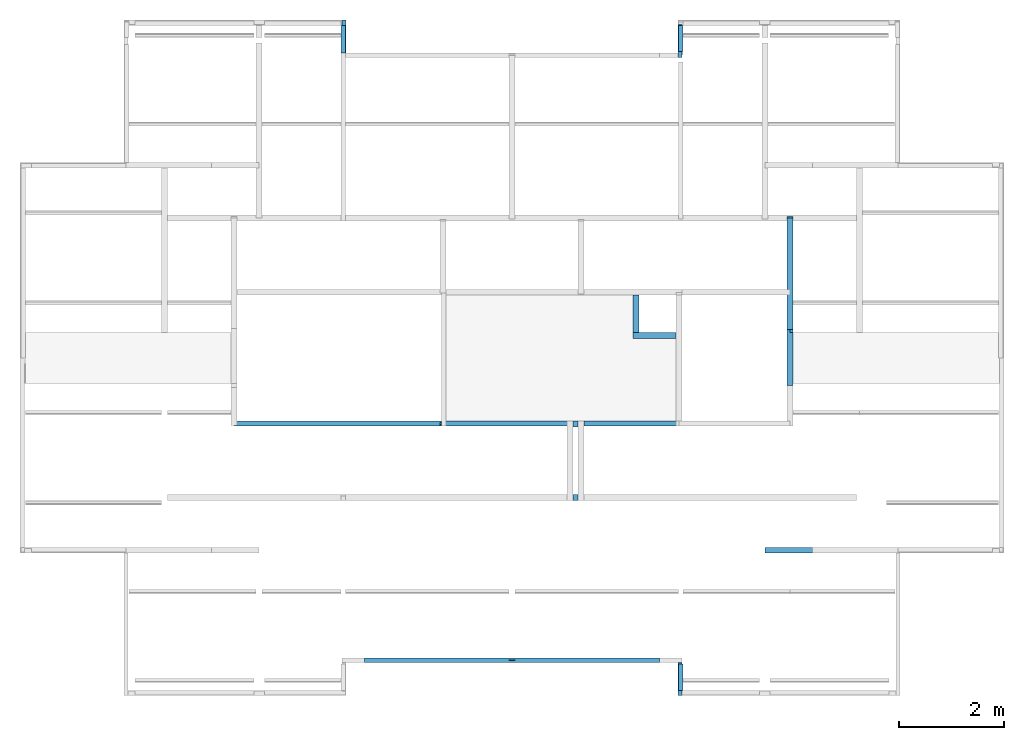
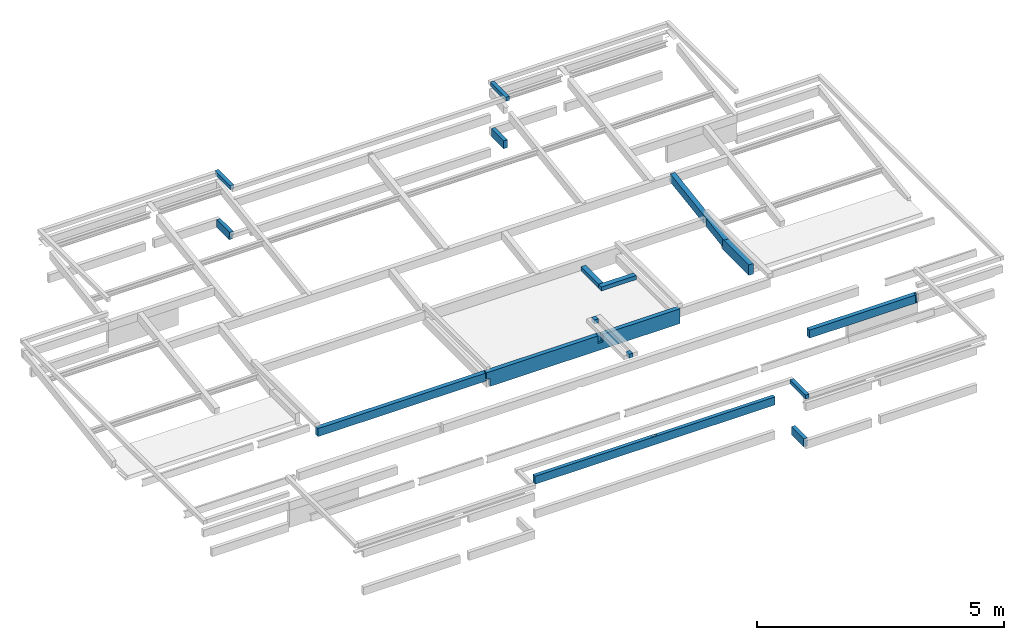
# One storey, part 7 of 9: 16 beams.
"""IFC4 building model written with IfcOpenShell, lengths in metres."""

import ifcopenshell
import ifcopenshell.guid

model = None  # the IFC model being written
_history = None  # IfcOwnerHistory: only IFC2X3 demands one
_inside = {}  # id of a spatial element -> (the spatial element, [elements in it])
_under = {}  # id of a project, library or spatial element -> (it, [spatial elements below it])
_declared = {}  # id of a project -> (the project, [libraries it declares])
_typed = {}  # id of a type object -> (the type object, [elements of that type])
_made_of = {}  # id of a material, layer set ... -> (it, [elements and type objects made of it])


def new_model(schema):
    """Start an empty IFC model of exactly this schema.

    Asked for "IFC4X3", IfcOpenShell would pick the latest addendum, in which some entities
    have other attributes; the version numbers below select the first issue.
    IFC2X3 requires an IfcOwnerHistory on every rooted entity: one is made here for all.
    """
    global model, _history
    if schema == "IFC4X3":
        model = ifcopenshell.file(schema_version=(4, 3, 0, 0))
    else:
        model = ifcopenshell.file(schema=schema)
    _inside.clear()
    _under.clear()
    _declared.clear()
    _typed.clear()
    _made_of.clear()
    _history = None
    if model.schema == "IFC2X3":
        org = make("IfcOrganization", Name="unknown")
        user = make(
            "IfcPersonAndOrganization",
            ThePerson=make("IfcPerson", FamilyName="unknown"),
            TheOrganization=org,
        )
        app = make(
            "IfcApplication",
            ApplicationDeveloper=org,
            Version="unknown",
            ApplicationFullName="unknown",
            ApplicationIdentifier="unknown",
        )
        _history = make(
            "IfcOwnerHistory",
            OwningUser=user,
            OwningApplication=app,
            ChangeAction="ADDED",
            CreationDate=0,
        )
    return model


def make(cls, **values):
    """One entity of the class cls with the attributes given. An attribute that is None is left unset."""
    return model.create_entity(
        cls, **{name: value for name, value in values.items() if value is not None}
    )


def entity(cls, *values):
    """Any entity or typed value of the class cls, its attributes in the order of the schema. None: left unset."""
    e = model.create_entity(cls)
    for i, value in enumerate(values):
        if value is not None:
            e[i] = value
    return e


def rooted(cls, **values):
    """An entity with a GlobalId (a new one), such as an element, a storey or a relation."""
    return make(cls, GlobalId=ifcopenshell.guid.new(), OwnerHistory=_history, **values)


def si_unit(unit_type, name, prefix=None):
    """IfcSIUnit, for example si_unit("LENGTHUNIT", "METRE", prefix="MILLI")."""
    return make("IfcSIUnit", UnitType=unit_type, Prefix=prefix, Name=name)


def converted_unit(unit_type, name, factor, base, dimensions=None, offset=None):
    """IfcConversionBasedUnit, such as the inch: factor (a typed value) times the base unit."""
    return make(
        "IfcConversionBasedUnit"
        if offset is None
        else "IfcConversionBasedUnitWithOffset",
        ConversionOffset=offset,
        Dimensions=None
        if dimensions is None
        else entity("IfcDimensionalExponents", *dimensions),
        UnitType=unit_type,
        Name=name,
        ConversionFactor=make(
            "IfcMeasureWithUnit", ValueComponent=factor, UnitComponent=base
        ),
    )


def derived_unit(unit_type, elements):
    """IfcDerivedUnit: a product of units, each with its exponent."""
    return make(
        "IfcDerivedUnit",
        Elements=[
            make("IfcDerivedUnitElement", Unit=unit, Exponent=power)
            for unit, power in elements
        ],
        UnitType=unit_type,
    )


def assignment(units):
    """IfcUnitAssignment: the units of a project."""
    return None if units is None else make("IfcUnitAssignment", Units=units)


def point(xyz):
    """IfcCartesianPoint."""
    return None if xyz is None else make("IfcCartesianPoint", Coordinates=xyz)


def direction(xyz):
    """IfcDirection."""
    return None if xyz is None else make("IfcDirection", DirectionRatios=xyz)


def frame(location, z_axis=None, x_axis=None):
    """IfcAxis2Placement3D, a coordinate frame: its origin and axes. An axis left out is left unset."""
    return make(
        "IfcAxis2Placement3D",
        Location=point(location),
        Axis=direction(z_axis),
        RefDirection=direction(x_axis),
    )


def origin():
    """The frame at (0, 0, 0) with its axes left unset."""
    return frame((0.0, 0.0, 0.0))


def place(relative_to, where):
    """IfcLocalPlacement: puts the frame where relative to a parent placement (None: the world)."""
    return make(
        "IfcLocalPlacement", PlacementRelTo=relative_to, RelativePlacement=where
    )


def context(
    kind, dimensions, precision=None, world=None, true_north=None, identifier=None
):
    """IfcGeometricRepresentationContext, for example the 3D "Model" context."""
    return make(
        "IfcGeometricRepresentationContext",
        ContextIdentifier=identifier,
        ContextType=kind,
        CoordinateSpaceDimension=dimensions,
        Precision=precision,
        WorldCoordinateSystem=world,
        TrueNorth=true_north,
    )


def subcontext(parent, identifier, kind, view, scale=None):
    """IfcGeometricRepresentationSubContext, for example "Body" below "Model"."""
    return make(
        "IfcGeometricRepresentationSubContext",
        ContextIdentifier=identifier,
        ContextType=kind,
        ParentContext=parent,
        TargetScale=scale,
        TargetView=view,
    )


def project(units=None, contexts=None):
    """IfcProject with its units and contexts."""
    return rooted(
        "IfcProject",
        Name="project",
        RepresentationContexts=contexts,
        UnitsInContext=assignment(units),
    )


def spatial(cls, under=None, at=None, **own):
    """A site, building, storey or space (cls), placed at a placement, below another one or the project."""
    s = rooted(cls, ObjectPlacement=at, **own)
    if under is not None:
        _under.setdefault(under.id(), (under, []))[1].append(s)
    return s


def point_list(points):
    """IfcCartesianPointList2D or 3D."""
    cls = (
        "IfcCartesianPointList2D" if len(points[0]) == 2 else "IfcCartesianPointList3D"
    )
    return make(cls, CoordList=points)


def indexed_curve(points, segments=None, self_intersect=None):
    """IfcIndexedPolyCurve: lines and arcs through numbered points (the first is 1)."""
    return make(
        "IfcIndexedPolyCurve",
        Points=point_list(points),
        Segments=segments,
        SelfIntersect=self_intersect,
    )


def outline(outer, holes=None, kind="AREA"):
    """IfcArbitraryClosedProfileDef: a profile drawn as a closed curve; with holes, ...WithVoids."""
    if holes is None:
        return make("IfcArbitraryClosedProfileDef", ProfileType=kind, OuterCurve=outer)
    return make(
        "IfcArbitraryProfileDefWithVoids",
        ProfileType=kind,
        OuterCurve=outer,
        InnerCurves=holes,
    )


def extrude(swept, where, along, depth):
    """IfcExtrudedAreaSolid: the profile swept, set in the frame where, extruded along a direction by depth."""
    return make(
        "IfcExtrudedAreaSolid",
        SweptArea=swept,
        Position=where,
        ExtrudedDirection=direction(along),
        Depth=depth,
    )


def polygons(points, faces, closed=None, point_numbers=None):
    """IfcPolygonalFaceSet: a face is its outer loop, then its inner loops; points numbered from 1."""
    made = []
    for loops in faces:
        if len(loops) == 1:
            made.append(make("IfcIndexedPolygonalFace", CoordIndex=loops[0]))
        else:
            made.append(
                make(
                    "IfcIndexedPolygonalFaceWithVoids",
                    CoordIndex=loops[0],
                    InnerCoordIndices=loops[1:],
                )
            )
    return make(
        "IfcPolygonalFaceSet",
        Coordinates=point_list(points),
        Closed=closed,
        Faces=made,
        PnIndex=point_numbers,
    )


def shape(context_of_items, identifier, shape_type, items):
    """IfcShapeRepresentation: the items that make up one representation, for example the "Body"."""
    return make(
        "IfcShapeRepresentation",
        ContextOfItems=context_of_items,
        RepresentationIdentifier=identifier,
        RepresentationType=shape_type,
        Items=items,
    )


def source(mapping_origin, context_of_items, identifier, shape_type, items):
    """IfcRepresentationMap: a shape defined once, which mapped items show again and again."""
    return make(
        "IfcRepresentationMap",
        MappingOrigin=mapping_origin,
        MappedRepresentation=shape(context_of_items, identifier, shape_type, items),
    )


def transform(
    local_origin,
    x_axis=None,
    y_axis=None,
    z_axis=None,
    scale=None,
    scale2=None,
    scale3=None,
    uniform=True,
):
    """IfcCartesianTransformationOperator3D, or its non-uniform kind. x_axis, y_axis, z_axis: its Axis1, 2, 3."""
    if uniform:
        return make(
            "IfcCartesianTransformationOperator3D",
            Axis1=direction(x_axis),
            Axis2=direction(y_axis),
            LocalOrigin=point(local_origin),
            Scale=scale,
            Axis3=direction(z_axis),
        )
    return make(
        "IfcCartesianTransformationOperator3DnonUniform",
        Axis1=direction(x_axis),
        Axis2=direction(y_axis),
        LocalOrigin=point(local_origin),
        Scale=scale,
        Axis3=direction(z_axis),
        Scale2=scale2,
        Scale3=scale3,
    )


def mapped(mapping_source, mapping_target):
    """IfcMappedItem: shows the shape of a source again, moved by a transform."""
    return make(
        "IfcMappedItem", MappingSource=mapping_source, MappingTarget=mapping_target
    )


def material(Name=None, Category=None):
    """IfcMaterial."""
    return make("IfcMaterial", Name=Name, Category=Category)


def made_of(thing, what):
    """Note that an element or type object is made of a material, layer set ...; save() writes the relation."""
    if what is not None:
        _made_of.setdefault(what.id(), (what, []))[1].append(thing)
    return thing


def type_object(cls, material=None, **own):
    """A type object (cls), such as IfcWallType, which elements share."""
    return made_of(rooted(cls, **own), material)


def type_shapes(of_type, sources):
    """Give a type object the sources (RepresentationMaps) that its elements show as mapped items."""
    of_type.RepresentationMaps = sources


def element(
    cls,
    number,
    at=None,
    inside=None,
    cuts=None,
    type_object=None,
    material=None,
    context=None,
    identifier="Body",
    shape_type=None,
    held_by="IfcProductDefinitionShape",
    body=None,
    shapes=None,
    **own,
):
    """One element of the class cls, such as IfcWall. Its Tag is "e" and its number.

    at: its placement. inside: the storey or other place that contains it. cuts: it is an
    opening in that element (IfcRelVoidsElement). A single representation is given by context,
    identifier, shape_type and body (its items); several are given by shapes. held_by: the class
    of the entity that holds the representations. save() writes the other relations.
    """
    e = rooted(cls, Tag="e%d" % number, ObjectPlacement=at, **own)
    if body is not None:
        shapes = [shape(context, identifier, shape_type, body)]
    if shapes is not None:
        e.Representation = make(held_by, Representations=shapes)
    if inside is not None:
        _inside.setdefault(inside.id(), (inside, []))[1].append(e)
    if cuts is not None:
        rooted(
            "IfcRelVoidsElement", RelatingBuildingElement=cuts, RelatedOpeningElement=e
        )
    if type_object is not None:
        _typed.setdefault(type_object.id(), (type_object, []))[1].append(e)
    return made_of(e, material)


def aggregate(whole, parts):
    """IfcRelAggregates: a whole, such as a stair, and the parts it consists of."""
    return rooted("IfcRelAggregates", RelatingObject=whole, RelatedObjects=parts)


def save(model, path):
    """Write the relations noted so far, then the file.

    IfcRelAggregates (storeys below a building ...), IfcRelContainedInSpatialStructure (elements
    in a storey), IfcRelDefinesByType, IfcRelAssociatesMaterial and IfcRelDeclares: one each for
    every whole, place, type object, material and project.
    """
    for whole, parts in _under.values():
        aggregate(whole, parts)
    for where, things in _inside.values():
        rooted(
            "IfcRelContainedInSpatialStructure",
            RelatedElements=things,
            RelatingStructure=where,
        )
    for kind, things in _typed.values():
        rooted("IfcRelDefinesByType", RelatedObjects=things, RelatingType=kind)
    for what, things in _made_of.values():
        rooted("IfcRelAssociatesMaterial", RelatedObjects=things, RelatingMaterial=what)
    for by, libraries in _declared.values():
        rooted("IfcRelDeclares", RelatingContext=by, RelatedDefinitions=libraries)
    model.write(path)


model = new_model("IFC4")

# Units and contexts
model_context = context("Model", 3, precision=1e-05, world=origin(), true_north=direction((6.123031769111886e-17, 1.0)))
body_context = subcontext(model_context, "Body", "Model", "MODEL_VIEW")
ifc_project = project(units=[si_unit("LENGTHUNIT", "METRE"), si_unit("AREAUNIT", "SQUARE_METRE"), si_unit("VOLUMEUNIT", "CUBIC_METRE"), converted_unit("PLANEANGLEUNIT", "DEGREE", entity("IfcRatioMeasure", 0.017453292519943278), si_unit("PLANEANGLEUNIT", "RADIAN"), dimensions=[0, 0, 0, 0, 0, 0, 0]), si_unit("MASSUNIT", "GRAM", prefix="KILO"), derived_unit("MASSDENSITYUNIT", [(si_unit("MASSUNIT", "GRAM", prefix="KILO"), 1), (si_unit("LENGTHUNIT", "METRE"), -3)]), derived_unit("IONCONCENTRATIONUNIT", [(si_unit("MASSUNIT", "GRAM", prefix="KILO"), 1), (si_unit("LENGTHUNIT", "METRE"), -3)]), derived_unit("MOMENTOFINERTIAUNIT", [(si_unit("LENGTHUNIT", "METRE"), 4)]), si_unit("TIMEUNIT", "SECOND"), si_unit("FREQUENCYUNIT", "HERTZ"), si_unit("THERMODYNAMICTEMPERATUREUNIT", "DEGREE_CELSIUS"), derived_unit("THERMALTRANSMITTANCEUNIT", [(si_unit("MASSUNIT", "GRAM", prefix="KILO"), 1), (si_unit("THERMODYNAMICTEMPERATUREUNIT", "KELVIN"), -1), (si_unit("TIMEUNIT", "SECOND"), -3)]), derived_unit("THERMALCONDUCTANCEUNIT", [(si_unit("MASSUNIT", "GRAM", prefix="KILO"), 1), (si_unit("THERMODYNAMICTEMPERATUREUNIT", "KELVIN"), -1), (si_unit("TIMEUNIT", "SECOND"), -3), (si_unit("LENGTHUNIT", "METRE"), 1)]), derived_unit("VOLUMETRICFLOWRATEUNIT", [(si_unit("LENGTHUNIT", "METRE"), 3), (si_unit("TIMEUNIT", "SECOND"), -1)]), derived_unit("MASSFLOWRATEUNIT", [(si_unit("MASSUNIT", "GRAM", prefix="KILO"), 1), (si_unit("TIMEUNIT", "SECOND"), -1)]), derived_unit("ROTATIONALFREQUENCYUNIT", [(si_unit("TIMEUNIT", "SECOND"), -1)]), si_unit("ELECTRICCURRENTUNIT", "AMPERE"), si_unit("ELECTRICVOLTAGEUNIT", "VOLT"), si_unit("POWERUNIT", "WATT"), si_unit("FORCEUNIT", "NEWTON", prefix="KILO"), si_unit("ILLUMINANCEUNIT", "LUX"), si_unit("LUMINOUSFLUXUNIT", "LUMEN"), si_unit("LUMINOUSINTENSITYUNIT", "CANDELA"), derived_unit("USERDEFINED", [(si_unit("MASSUNIT", "GRAM", prefix="KILO"), -1), (si_unit("LENGTHUNIT", "METRE"), -2), (si_unit("TIMEUNIT", "SECOND"), 3), (si_unit("LUMINOUSFLUXUNIT", "LUMEN"), 1)]), derived_unit("USERDEFINED", [(si_unit("MASSUNIT", "GRAM", prefix="KILO"), 1), (si_unit("TIMEUNIT", "SECOND"), -3), (si_unit("LENGTHUNIT", "METRE"), 3), (si_unit("ELECTRICCURRENTUNIT", "AMPERE"), -2)]), derived_unit("SOUNDPOWERUNIT", [(si_unit("MASSUNIT", "GRAM", prefix="KILO"), 1), (si_unit("TIMEUNIT", "SECOND"), -3), (si_unit("LENGTHUNIT", "METRE"), 2)]), derived_unit("SOUNDPRESSUREUNIT", [(si_unit("MASSUNIT", "GRAM", prefix="KILO"), 1), (si_unit("LENGTHUNIT", "METRE"), -1), (si_unit("TIMEUNIT", "SECOND"), -2)]), derived_unit("LINEARVELOCITYUNIT", [(si_unit("LENGTHUNIT", "METRE"), 1), (si_unit("TIMEUNIT", "SECOND"), -1)]), si_unit("PRESSUREUNIT", "PASCAL"), derived_unit("USERDEFINED", [(si_unit("MASSUNIT", "GRAM", prefix="KILO"), 1), (si_unit("LENGTHUNIT", "METRE"), -2), (si_unit("TIMEUNIT", "SECOND"), -2)]), derived_unit("LINEARFORCEUNIT", [(si_unit("MASSUNIT", "GRAM", prefix="KILO"), 1), (si_unit("TIMEUNIT", "SECOND"), -2)]), derived_unit("PLANARFORCEUNIT", [(si_unit("MASSUNIT", "GRAM", prefix="KILO"), 1), (si_unit("LENGTHUNIT", "METRE"), -1), (si_unit("TIMEUNIT", "SECOND"), -2)]), derived_unit("SPECIFICHEATCAPACITYUNIT", [(si_unit("THERMODYNAMICTEMPERATUREUNIT", "KELVIN"), -1), (si_unit("LENGTHUNIT", "METRE"), 2), (si_unit("TIMEUNIT", "SECOND"), -2)]), derived_unit("HEATINGVALUEUNIT", [(si_unit("LENGTHUNIT", "METRE"), 2), (si_unit("TIMEUNIT", "SECOND"), -2)]), derived_unit("VAPORPERMEABILITYUNIT", [(si_unit("LENGTHUNIT", "METRE"), -1), (si_unit("TIMEUNIT", "SECOND"), 1)]), derived_unit("DYNAMICVISCOSITYUNIT", [(si_unit("MASSUNIT", "GRAM", prefix="KILO"), 1), (si_unit("TIMEUNIT", "SECOND"), -1), (si_unit("LENGTHUNIT", "METRE"), -1)]), derived_unit("THERMALEXPANSIONCOEFFICIENTUNIT", [(si_unit("THERMODYNAMICTEMPERATUREUNIT", "KELVIN"), -1)]), derived_unit("MODULUSOFELASTICITYUNIT", [(si_unit("MASSUNIT", "GRAM", prefix="KILO"), 1), (si_unit("LENGTHUNIT", "METRE"), -1), (si_unit("TIMEUNIT", "SECOND"), -2)]), derived_unit("ISOTHERMALMOISTURECAPACITYUNIT", [(si_unit("LENGTHUNIT", "METRE"), 3), (si_unit("MASSUNIT", "GRAM", prefix="KILO"), -1)]), derived_unit("MOISTUREDIFFUSIVITYUNIT", [(si_unit("TIMEUNIT", "SECOND"), -1), (si_unit("LENGTHUNIT", "METRE"), 2)])], contexts=[model_context])

# Site, building, storey
site_placement = place(None, origin())
site = spatial("IfcSite", under=ifc_project, at=site_placement, Name="Default", CompositionType="ELEMENT")
building_placement = place(site_placement, origin())
building = spatial("IfcBuilding", under=site, at=building_placement, Name="Las nubes", CompositionType="ELEMENT")
storey_placement = place(building_placement, frame((0.0, 0.0, 14.100000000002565)))
storey = spatial("IfcBuildingStorey", under=building, at=storey_placement, Name="CUBIERTA", CompositionType="ELEMENT", Elevation=14.100000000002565)

# Beams
ifc_material_1 = material(Name="Concrete, Cast In Situ", Category="Materials")
beam_type_1 = type_object("IfcBeamType", Name="M_Concrete-Rectangular Beam:(0.115x0.20)", PredefinedType="BEAM", material=ifc_material_1)
shared_shape_1 = source(origin(), body_context, "Body", "Tessellation", [
    polygons([(6.497202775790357e-15, 2.1734001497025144, 0.5237972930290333), (0.11500000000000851, 2.1734001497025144, 0.5237972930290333), (0.11500000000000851, 2.203068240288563, 0.3260100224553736), (6.497202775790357e-15, 2.203068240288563, 0.3260100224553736), (0.0, 0.0, 0.19778727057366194), (0.0, 0.029668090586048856, 0.0), (0.057499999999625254, 0.029668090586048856, 0.0), (0.11500000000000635, 0.029668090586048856, 0.0), (0.11500000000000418, 0.0009001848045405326, 0.19178603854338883), (0.11500000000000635, 0.0, 0.19778727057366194), (2.1657342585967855e-15, 0.7159001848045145, 0.30516729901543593), (0.11500000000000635, 0.0009001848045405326, 0.19792229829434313), (0.11500000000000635, 0.00840020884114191, 0.19904730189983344), (0.11500000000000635, 0.11590018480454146, 0.01293481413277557), (2.1657342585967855e-15, 0.05340018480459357, 0.0035598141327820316), (2.1657342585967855e-15, 0.11590018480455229, 0.01293481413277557), (2.1657342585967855e-15, 0.730650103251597, 0.10514730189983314), (0.05749999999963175, 0.7306501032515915, 0.10514730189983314), (0.05749999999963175, 0.8159001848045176, 0.11793481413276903), (2.1657342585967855e-15, 0.815900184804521, 0.11793481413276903), (2.1657342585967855e-15, 0.8159001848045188, 0.30514730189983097), (0.05749999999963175, 0.7159001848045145, 0.30514730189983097), (0.05749999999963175, 0.8159001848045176, 0.30514730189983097), (0.05749999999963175, 0.7159001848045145, 0.10514730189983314), (2.1657342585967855e-15, 0.7159001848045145, 0.10514730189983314)], [[[1, 2, 3, 4]], [[5, 6, 7, 8, 9, 10]], [[2, 1, 11, 5, 10, 12, 13]], [[3, 2, 13, 12, 10, 9, 8, 14]], [[4, 3, 14, 8, 7, 6, 15, 16, 17, 18, 19, 20]], [[1, 4, 20, 21, 11]], [[22, 23, 19, 18, 24]], [[23, 22, 11, 21]], [[22, 24, 25, 11]], [[24, 18, 17, 25]], [[19, 23, 21, 20]], [[6, 5, 11, 25, 17, 16, 15]]], closed=True),
])
type_shapes(beam_type_1, [shared_shape_1])
beam_1_placement = place(storey_placement, frame((14.557500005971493, -5.940900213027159, -0.039047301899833)))
element("IfcBeam", 1, at=beam_1_placement, inside=storey, type_object=beam_type_1, material=ifc_material_1, Name="M_Concrete-Rectangular Beam:(0.115x0.20)", ObjectType="M_Concrete-Rectangular Beam:(0.115x0.20)", PredefinedType="BEAM", context=body_context, shape_type="MappedRepresentation", body=[
    mapped(shared_shape_1, transform((0.0, 0.0, 0.0), scale=1.0)),
])
ifc_material_2 = material(Name="Concrete - Cast-in-Place Concrete - 28 MPa SLAB", Category="Materials")
beam_type_2 = type_object("IfcBeamType", Name="M_Concrete-Rectangular Beam:(0.10x0.20)", PredefinedType="BEAM", material=ifc_material_2)
shared_shape_2 = source(origin(), body_context, "Body", "Tessellation", [
    polygons([(-5.414335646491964e-16, 1.7325874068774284e-14, 2.1657342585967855e-15), (-5.414335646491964e-16, 1.7325874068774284e-14, 0.012787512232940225), (-5.414335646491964e-16, 1.7325874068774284e-14, 0.2), (-5.414335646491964e-16, 0.10000000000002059, 0.2), (-5.414335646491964e-16, 0.10000000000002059, 2.1657342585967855e-15), (-5.414335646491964e-16, 0.08525008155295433, 0.0), (0.05749999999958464, 1.5160139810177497e-14, 0.2), (1.3574999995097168, 1.0828671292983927e-14, 0.2), (1.472499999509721, 1.0828671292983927e-14, 0.2), (3.917500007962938, 1.0828671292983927e-15, 0.2), (3.917500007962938, 0.06403906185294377, 0.2), (3.947500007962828, 0.06403906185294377, 0.2), (3.947500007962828, 0.1000000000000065, 0.2), (0.05749999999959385, 0.1000000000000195, 0.2), (3.947500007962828, 0.10000000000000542, 0.03389999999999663), (3.947500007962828, 0.1000000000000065, 2.1657342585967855e-15), (3.9125000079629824, 0.10000000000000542, 0.0), (0.9574999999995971, 0.10000000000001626, 0.0), (0.05749999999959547, 0.1000000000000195, 0.0), (3.947500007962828, 1.0828671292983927e-15, 2.1657342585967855e-15), (3.9125000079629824, 1.0828671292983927e-15, 0.0), (0.9574999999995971, 1.191153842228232e-14, 0.0), (3.947500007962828, 0.0, 0.012787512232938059), (3.917500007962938, 0.0, 0.012787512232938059), (3.9175000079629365, 0.03516595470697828, 0.007512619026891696), (3.947500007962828, 0.03516595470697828, 0.007512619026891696), (3.947500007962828, 0.039124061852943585, 0.03389999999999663)], [[[1, 2, 3, 4, 5, 6]], [[4, 3, 7, 8, 9, 10, 11, 12, 13, 14]], [[5, 4, 14, 13, 15, 16, 17, 18, 19]], [[1, 6, 5, 19, 18, 17, 16, 20, 21, 22]], [[3, 2, 1, 22, 21, 20, 23, 24, 10, 9, 8, 7]], [[11, 25, 26, 27, 12]], [[25, 24, 23, 26]], [[25, 11, 10, 24]], [[13, 12, 27, 26, 23, 20, 16, 15]]], closed=True),
])
type_shapes(beam_type_2, [shared_shape_2])
beam_2_placement = place(storey_placement, frame((4.029999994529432, -7.725000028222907, 0.0660999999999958)))
element("IfcBeam", 2, at=beam_2_placement, inside=storey, type_object=beam_type_2, material=ifc_material_2, Name="M_Concrete-Rectangular Beam:(0.10x0.20)", ObjectType="M_Concrete-Rectangular Beam:(0.10x0.20)", PredefinedType="BEAM", context=body_context, shape_type="MappedRepresentation", body=[
    mapped(shared_shape_2, transform((0.0, 0.0, 0.0), scale=1.0)),
])
beam_type_3 = type_object("IfcBeamType", Name="M_Concrete-Rectangular Beam:(0.085x0.20)", PredefinedType="BEAM", material=ifc_material_1)
shared_shape_3 = source(origin(), body_context, "Body", "Tessellation", [
    polygons([(2.8650000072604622, 0.0421475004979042, 0.2), (2.7450000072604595, 0.0421475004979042, 0.2), (2.7450000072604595, 0.05816664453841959, 0.2), (2.8650000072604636, 0.05816664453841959, 0.2), (5.610000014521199, 0.0, 0.2), (5.610000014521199, 0.08500000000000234, 0.2), (0.0, 0.08500000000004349, 0.2), (0.0, 4.114895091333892e-14, 0.2), (5.610000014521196, 0.0, -2.1657342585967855e-15), (0.0, 4.114895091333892e-14, -2.1657342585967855e-15), (2.7450000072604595, 0.08500000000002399, -2.1657342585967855e-15), (2.7450000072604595, 0.04325008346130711, -2.1657342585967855e-15), (2.8650000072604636, 0.04325008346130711, -2.1657342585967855e-15), (2.8650000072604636, 0.08500000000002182, -2.1657342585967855e-15), (5.610000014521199, 0.08500000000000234, -2.1657342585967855e-15), (0.0, 0.08500000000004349, -2.1657342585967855e-15), (2.7450000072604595, 0.08500000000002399, 0.1959749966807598), (2.8650000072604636, 0.08500000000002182, 0.1959749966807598), (2.8650000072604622, 0.012831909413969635, 0.004562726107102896), (2.745000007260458, 0.012831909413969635, 0.004562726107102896)], [[[5, 6, 7, 8], [1, 2, 3, 4]], [[9, 5, 8, 10]], [[11, 12, 13, 14, 15, 9, 10, 16]], [[17, 11, 16, 7, 6, 15, 14, 18]], [[19, 20, 2, 1]], [[12, 11, 17, 3, 2, 20]], [[14, 13, 19, 1, 4, 18]], [[3, 17, 18, 4]], [[20, 19, 13, 12]], [[6, 5, 9, 15]], [[8, 7, 16, 10]]], closed=True),
])
type_shapes(beam_type_3, [shared_shape_3])
beam_3_placement = place(storey_placement, frame((6.517499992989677, -12.225000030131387, 0.7473999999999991)))
element("IfcBeam", 3, at=beam_3_placement, inside=storey, type_object=beam_type_3, material=ifc_material_1, Name="M_Concrete-Rectangular Beam:(0.085x0.20)", ObjectType="M_Concrete-Rectangular Beam:(0.085x0.20)", PredefinedType="BEAM", context=body_context, shape_type="MappedRepresentation", body=[
    mapped(shared_shape_3, transform((0.0, 0.0, 0.0), scale=1.0)),
])
ifc_material_3 = material(Name="Concrete - Cast-in-Place Concrete - 35 MPa", Category="Materials")
beam_type_4 = type_object("IfcBeamType", Name="M_Concrete-Rectangular Beam:(0.10x0.20)", PredefinedType="BEAM", material=ifc_material_3)
shared_shape_4 = source(origin(), body_context, "Body", "Tessellation", [
    polygons([(2.1657342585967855e-15, 0.0, 0.2), (2.1657342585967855e-15, 0.10000000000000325, 0.2), (2.1657342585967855e-15, 0.10000000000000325, 0.0), (0.0, 0.08558341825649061, 0.0), (2.1657342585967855e-15, 0.0, 0.0), (0.0, 0.0, 0.012837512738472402), (2.5349999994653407, 8.662937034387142e-15, 0.0), (2.5349999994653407, 0.015005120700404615, 0.0), (2.5349999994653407, 0.10000000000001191, 0.0), (2.5349999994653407, 0.10000000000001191, 0.2), (2.5349999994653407, 0.05653250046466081, 0.2), (2.5349999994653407, 0.027831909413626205, 0.008662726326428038), (2.5349999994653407, 0.015005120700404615, 0.010586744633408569), (2.5349999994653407, 8.662937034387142e-15, 0.012837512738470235), (0.05749999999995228, 0.0, 0.2), (2.4774999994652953, 8.662937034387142e-15, 0.2), (2.4774999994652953, 0.056532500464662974, 0.2), (0.05749999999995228, 0.10000000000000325, 0.2), (0.05749999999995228, 0.10000000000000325, 0.0), (2.4774999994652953, 8.662937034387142e-15, 0.012837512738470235), (2.4774999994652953, 0.027831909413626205, 0.008662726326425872)], [[[1, 2, 3, 4, 5, 6]], [[7, 8, 9, 10, 11, 12, 13, 14]], [[2, 1, 15, 16, 17, 11, 10, 18]], [[3, 2, 18, 10, 9, 19]], [[5, 4, 3, 19, 9, 8, 7]], [[1, 6, 5, 7, 14, 20, 16, 15]], [[20, 21, 17, 16]], [[21, 20, 14, 13, 12]], [[17, 21, 12, 11]]], closed=True),
])
type_shapes(beam_type_4, [shared_shape_4])
beam_4_placement = place(storey_placement, frame((14.13500000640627, -10.140000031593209, 0.4282999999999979)))
element("IfcBeam", 4, at=beam_4_placement, inside=storey, type_object=beam_type_4, material=ifc_material_3, Name="M_Concrete-Rectangular Beam:(0.10x0.20)", ObjectType="M_Concrete-Rectangular Beam:(0.10x0.20)", PredefinedType="BEAM", context=body_context, shape_type="MappedRepresentation", body=[
    mapped(shared_shape_4, transform((0.0, 0.0, 0.0), scale=1.0)),
])
beam_type_5 = type_object("IfcBeamType", Name="M_Concrete-Rectangular Beam:(0.115x0.20)", PredefinedType="BEAM", material=ifc_material_1)
shared_shape_5 = source(origin(), body_context, "Body", "SweptSolid", [
    extrude(outline(indexed_curve([(-0.04999999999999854, -0.057499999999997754), (0.049999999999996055, -0.05750000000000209), (0.04999999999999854, 0.05750000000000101), (-0.049999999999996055, 0.057500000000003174), (-0.04999999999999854, -0.057499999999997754)], self_intersect=False)), frame((12.442500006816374, -6.002500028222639, 14.150000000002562), z_axis=(-1.0, 0.0, 0.0), x_axis=(0.0, 0.0, -1.0)), (0.0, 0.0, 1.0), 0.8150000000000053),
])
type_shapes(beam_type_5, [shared_shape_5])
beam_5_placement = place(storey_placement, frame((0.0, 0.0, -14.100000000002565)))
element("IfcBeam", 5, at=beam_5_placement, inside=storey, type_object=beam_type_5, material=ifc_material_1, Name="M_Concrete-Rectangular Beam:(0.115x0.20)", ObjectType="M_Concrete-Rectangular Beam:(0.115x0.20)", PredefinedType="BEAM", context=body_context, shape_type="MappedRepresentation", body=[
    mapped(shared_shape_5, transform((0.0, 0.0, 0.0), scale=1.0)),
])
beam_type_6 = type_object("IfcBeamType", Name="M_Concrete-Rectangular Beam:(0.115x0.20)", PredefinedType="BEAM", material=ifc_material_1)
shared_shape_6 = source(origin(), body_context, "Body", "SweptSolid", [
    extrude(outline(indexed_curve([(-0.05750000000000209, -0.0499999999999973), (0.05750000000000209, -0.0499999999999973), (0.05750000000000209, 0.0499999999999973), (-0.05750000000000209, 0.0499999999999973), (-0.05750000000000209, -0.0499999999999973)], self_intersect=False)), frame((11.685000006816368, -5.945000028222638, 14.150000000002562), z_axis=(0.0, 1.0, 0.0), x_axis=(-1.0, 0.0, 0.0)), (0.0, 0.0, 1.0), 0.7200000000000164),
])
type_shapes(beam_type_6, [shared_shape_6])
beam_6_placement = place(storey_placement, frame((0.0, 0.0, -14.100000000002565)))
element("IfcBeam", 6, at=beam_6_placement, inside=storey, type_object=beam_type_6, material=ifc_material_1, Name="M_Concrete-Rectangular Beam:(0.115x0.20)", ObjectType="M_Concrete-Rectangular Beam:(0.115x0.20)", PredefinedType="BEAM", context=body_context, shape_type="MappedRepresentation", body=[
    mapped(shared_shape_6, transform((0.0, 0.0, 0.0), scale=1.0)),
])
beam_type_7 = type_object("IfcBeamType", Name="M_Concrete-Rectangular Beam:(0.115x0.10)", PredefinedType="BEAM", material=ifc_material_1)
shared_shape_7 = source(origin(), body_context, "Body", "SweptSolid", [
    extrude(outline(indexed_curve([(-0.050000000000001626, -0.05750000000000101), (0.04999999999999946, -0.05750000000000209), (0.04999999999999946, 0.05750000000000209), (-0.050000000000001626, 0.05750000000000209), (-0.050000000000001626, -0.05750000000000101)], self_intersect=False)), frame((10.487500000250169, -9.082499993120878, 14.750000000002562), z_axis=(1.0, 0.0, 0.0), x_axis=(0.0, 0.0, -1.0)), (0.0, 0.0, 1.0), 0.09499999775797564),
])
type_shapes(beam_type_7, [shared_shape_7])
beam_7_placement = place(storey_placement, frame((0.0, 0.0, -14.100000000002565)))
element("IfcBeam", 7, at=beam_7_placement, inside=storey, type_object=beam_type_7, material=ifc_material_1, Name="M_Concrete-Rectangular Beam:(0.115x0.10)", ObjectType="M_Concrete-Rectangular Beam:(0.115x0.10)", PredefinedType="BEAM", context=body_context, shape_type="MappedRepresentation", body=[
    mapped(shared_shape_7, transform((0.0, 0.0, 0.0), scale=1.0)),
])
beam_type_8 = type_object("IfcBeamType", Name="M_Concrete-Rectangular Beam:(0.115x0.10)", PredefinedType="BEAM", material=ifc_material_1)
shared_shape_8 = source(origin(), body_context, "Body", "SweptSolid", [
    extrude(outline(indexed_curve([(-0.050000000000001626, -0.05750000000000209), (0.04999999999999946, -0.057500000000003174), (0.04999999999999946, 0.05750000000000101), (-0.050000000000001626, 0.05750000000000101), (-0.050000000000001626, -0.05750000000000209)], self_intersect=False)), frame((10.487500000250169, -7.682500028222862, 14.750000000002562), z_axis=(1.0, 0.0, 0.0), x_axis=(0.0, 0.0, -1.0)), (0.0, 0.0, 1.0), 0.09499999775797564),
])
type_shapes(beam_type_8, [shared_shape_8])
beam_8_placement = place(storey_placement, frame((0.0, 0.0, -14.100000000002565)))
element("IfcBeam", 8, at=beam_8_placement, inside=storey, type_object=beam_type_8, material=ifc_material_1, Name="M_Concrete-Rectangular Beam:(0.115x0.10)", ObjectType="M_Concrete-Rectangular Beam:(0.115x0.10)", PredefinedType="BEAM", context=body_context, shape_type="MappedRepresentation", body=[
    mapped(shared_shape_8, transform((0.0, 0.0, 0.0), scale=1.0)),
])
beam_type_9 = type_object("IfcBeamType", Name="M_Concrete-Rectangular Beam:(0.115x0.26)", PredefinedType="BEAM", material=ifc_material_1)
shared_shape_9 = source(origin(), body_context, "Body", "Tessellation", [
    polygons([(0.11500000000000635, 1.0600000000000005, 2.1657342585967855e-15), (4.331468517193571e-15, 1.0600000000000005, 0.0), (4.331468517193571e-15, 1.0600000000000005, 0.001300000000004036), (4.331468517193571e-15, 1.0600000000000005, 0.06581251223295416), (4.331468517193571e-15, 1.0600000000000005, 0.26000000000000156), (0.057499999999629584, 1.0600000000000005, 0.26000000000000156), (0.057499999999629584, 1.0600000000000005, 0.06581251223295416), (0.057499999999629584, 1.0600000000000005, 0.0013000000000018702), (0.11500000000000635, 1.0600000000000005, 0.0013000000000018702), (4.331468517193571e-15, 0.0, 0.26000000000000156), (4.331468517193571e-15, 0.0, 0.001300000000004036), (4.331468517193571e-15, 0.0, 0.0), (0.11500000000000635, 0.0, 2.1657342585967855e-15), (0.11500000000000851, 0.0, 0.001300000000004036), (0.11500000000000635, 0.0, 0.26000000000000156), (0.11500000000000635, 0.0375000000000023, 0.26000000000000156), (0.11500000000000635, 1.0074999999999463, 0.26000000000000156), (0.057499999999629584, 1.0074999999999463, 0.26000000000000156), (2.1657342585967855e-15, 0.037500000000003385, 0.26000000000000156), (0.11500000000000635, 0.46249999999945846, 2.1657342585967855e-15), (0.11500000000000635, 0.5824999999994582, 2.1657342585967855e-15), (0.11500000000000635, 1.0074999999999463, 0.0013000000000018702), (0.11500000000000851, 1.0074999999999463, 0.10130000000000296), (2.1657342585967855e-15, 0.46249999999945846, 0.0), (4.331468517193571e-15, 0.5824999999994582, 0.0), (0.057499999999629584, 1.0074999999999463, 0.2540387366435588), (0.057499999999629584, 1.0074999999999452, 0.0013000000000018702)], [[[1, 2, 3, 4, 5, 6, 7, 8, 9]], [[10, 11, 12, 13, 14, 15]], [[10, 15, 16, 17, 18, 6, 5, 19]], [[15, 14, 13, 20, 21, 1, 9, 22, 23, 17, 16]], [[2, 1, 21, 20, 13, 12, 24, 25]], [[5, 4, 3, 2, 25, 24, 12, 11, 10, 19]], [[18, 26, 27, 8, 7, 6]], [[27, 26, 18, 17, 23, 22]], [[8, 27, 22, 9]]], closed=True),
])
type_shapes(beam_type_9, [shared_shape_9])
beam_9_placement = place(storey_placement, frame((14.557500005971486, -6.947500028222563, -0.10130000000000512)))
element("IfcBeam", 9, at=beam_9_placement, inside=storey, type_object=beam_type_9, material=ifc_material_1, Name="M_Concrete-Rectangular Beam:(0.115x0.26)", ObjectType="M_Concrete-Rectangular Beam:(0.115x0.26)", PredefinedType="BEAM", context=body_context, shape_type="MappedRepresentation", body=[
    mapped(shared_shape_9, transform((0.0, 0.0, 0.0), scale=1.0)),
])
beam_type_10 = type_object("IfcBeamType", Name="M_Concrete-Rectangular Beam:(0.085x0.10)", PredefinedType="BEAM", material=ifc_material_1)
shared_shape_10 = source(origin(), body_context, "Body", "SweptSolid", [
    extrude(outline(indexed_curve([(-0.04250000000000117, -0.04999999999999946), (0.04250000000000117, -0.04999999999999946), (0.04250000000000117, 0.050000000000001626), (-0.04250000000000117, 0.050000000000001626), (-0.04250000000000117, -0.04999999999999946)], self_intersect=False)), frame((12.520000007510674, -0.08000002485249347, 15.296800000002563), z_axis=(0.0, -1.0, 0.0), x_axis=(-1.0, 0.0, 0.0)), (0.0, 0.0, 1.0), 0.6300000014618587),
])
type_shapes(beam_type_10, [shared_shape_10])
beam_10_placement = place(storey_placement, frame((0.0, 0.0, -14.100000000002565)))
element("IfcBeam", 10, at=beam_10_placement, inside=storey, type_object=beam_type_10, material=ifc_material_1, Name="M_Concrete-Rectangular Beam:(0.085x0.10)", ObjectType="M_Concrete-Rectangular Beam:(0.085x0.10)", PredefinedType="BEAM", context=body_context, shape_type="MappedRepresentation", body=[
    mapped(shared_shape_10, transform((0.0, 0.0, 0.0), scale=1.0)),
])
beam_type_11 = type_object("IfcBeamType", Name="M_Concrete-Rectangular Beam:(0.085x0.10)", PredefinedType="BEAM", material=ifc_material_1)
shared_shape_11 = source(origin(), body_context, "Body", "SweptSolid", [
    extrude(outline(indexed_curve([(-0.04250000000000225, -0.04999999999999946), (0.04250000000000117, -0.04999999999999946), (0.04250000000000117, 0.050000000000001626), (-0.04250000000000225, 0.050000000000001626), (-0.04250000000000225, -0.04999999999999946)], self_intersect=False)), frame((6.124999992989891, -0.625000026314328, 15.29680000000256), z_axis=(0.0, 1.0, 0.0), x_axis=(-1.0, 0.0, 0.0)), (0.0, 0.0, 1.0), 0.630000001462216),
])
type_shapes(beam_type_11, [shared_shape_11])
beam_11_placement = place(storey_placement, frame((0.0, 0.0, -14.100000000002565)))
element("IfcBeam", 11, at=beam_11_placement, inside=storey, type_object=beam_type_11, material=ifc_material_1, Name="M_Concrete-Rectangular Beam:(0.085x0.10)", ObjectType="M_Concrete-Rectangular Beam:(0.085x0.10)", PredefinedType="BEAM", context=body_context, shape_type="MappedRepresentation", body=[
    mapped(shared_shape_11, transform((0.0, 0.0, 0.0), scale=1.0)),
])
beam_type_12 = type_object("IfcBeamType", Name="M_Concrete-Rectangular Beam:(0.085x0.10)", PredefinedType="BEAM", material=ifc_material_1)
shared_shape_12 = source(origin(), body_context, "Body", "SweptSolid", [
    extrude(outline(indexed_curve([(-0.04250000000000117, -0.04999999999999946), (0.04250000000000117, -0.04999999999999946), (0.04250000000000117, 0.050000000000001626), (-0.04250000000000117, 0.050000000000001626), (-0.04250000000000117, -0.04999999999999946)], self_intersect=False)), frame((12.52000000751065, -12.225000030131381, 15.296800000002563), z_axis=(0.0, -1.0, 0.0), x_axis=(-1.0, 0.0, 0.0)), (0.0, 0.0, 1.0), 0.6300000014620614),
])
type_shapes(beam_type_12, [shared_shape_12])
beam_12_placement = place(storey_placement, frame((0.0, 0.0, -14.100000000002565)))
element("IfcBeam", 12, at=beam_12_placement, inside=storey, type_object=beam_type_12, material=ifc_material_1, Name="M_Concrete-Rectangular Beam:(0.085x0.10)", ObjectType="M_Concrete-Rectangular Beam:(0.085x0.10)", PredefinedType="BEAM", context=body_context, shape_type="MappedRepresentation", body=[
    mapped(shared_shape_12, transform((0.0, 0.0, 0.0), scale=1.0)),
])
beam_type_13 = type_object("IfcBeamType", Name="M_Concrete-Rectangular Beam:(0.10x0.36)", PredefinedType="BEAM", material=ifc_material_2)
shared_shape_13 = source(origin(), body_context, "Body", "Tessellation", [
    polygons([(2.604999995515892, 0.0974149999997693, 0.36600000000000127), (2.719999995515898, 0.0974149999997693, 0.36600000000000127), (2.7199999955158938, 6.497202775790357e-15, 0.36600000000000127), (4.522500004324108, 1.0828671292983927e-15, 0.36600000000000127), (4.522500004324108, 0.10000000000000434, 0.36600000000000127), (-1.0828671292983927e-15, 0.10000000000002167, 0.36600000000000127), (-1.0828671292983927e-15, 0.06403906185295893, 0.36600000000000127), (-1.0828671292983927e-15, 1.624300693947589e-14, 0.36600000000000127), (0.08500000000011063, 1.624300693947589e-14, 0.36600000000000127), (2.6049999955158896, 6.497202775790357e-15, 0.36600000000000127), (4.522500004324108, 0.10000000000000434, 0.16600000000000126), (4.522500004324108, 0.10000000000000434, 0.0), (2.7249999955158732, 0.10000000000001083, 0.0), (0.08500000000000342, 0.10000000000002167, 0.0), (0.08500000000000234, 0.10000000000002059, 0.09990000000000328), (0.08500000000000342, 0.10000000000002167, 0.19989999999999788), (-1.0828671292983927e-15, 0.10000000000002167, 0.19989999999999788), (4.522500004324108, 1.0828671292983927e-15, 0.0), (2.7249999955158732, 6.497202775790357e-15, 0.0), (0.08500000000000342, 1.624300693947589e-14, 0.0), (2.7199999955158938, 6.497202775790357e-15, 0.17878751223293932), (2.6049999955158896, 7.580069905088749e-15, 0.17878751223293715), (-1.0828671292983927e-15, 1.624300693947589e-14, 0.19989999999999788), (0.08500000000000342, 1.624300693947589e-14, 0.19989999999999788), (0.08500000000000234, 1.624300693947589e-14, 0.17878751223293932), (4.522500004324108, 0.0, 0.16600000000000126), (2.604999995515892, 0.0678074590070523, 0.16861639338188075), (2.719999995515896, 0.0678074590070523, 0.16861639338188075), (0.08500000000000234, 0.039124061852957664, 0.19989999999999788), (-1.0828671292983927e-15, 0.039124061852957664, 0.19989999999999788)], [[[1, 2, 3, 4, 5, 6, 7, 8, 9, 10]], [[5, 11, 12, 13, 14, 15, 16, 17, 6]], [[12, 18, 19, 20, 14, 13]], [[3, 21, 22, 10, 9, 8, 23, 24, 25, 20, 19, 18, 26, 4]], [[27, 28, 2, 1]], [[2, 28, 21, 3]], [[28, 27, 22, 21]], [[27, 1, 10, 22]], [[4, 26, 18, 12, 11, 5]], [[16, 29, 24, 23, 30, 17]], [[24, 29, 16, 15, 14, 20, 25]], [[8, 7, 6, 17, 30, 23]]], closed=True),
])
type_shapes(beam_type_13, [shared_shape_13])
beam_13_placement = place(storey_placement, frame((7.9775000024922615, -7.725000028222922, -0.09990000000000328)))
element("IfcBeam", 13, at=beam_13_placement, inside=storey, type_object=beam_type_13, material=ifc_material_2, Name="M_Concrete-Rectangular Beam:(0.10x0.36)", ObjectType="M_Concrete-Rectangular Beam:(0.10x0.36)", PredefinedType="BEAM", context=body_context, shape_type="MappedRepresentation", body=[
    mapped(shared_shape_13, transform((0.0, 0.0, 0.0), scale=1.0)),
])
beam_type_14 = type_object("IfcBeamType", Name="M_Concrete-Rectangular Beam:(0.085x0.20)", PredefinedType="BEAM", material=ifc_material_1)
shared_shape_14 = source(origin(), body_context, "Body", "SweptSolid", [
    extrude(outline(indexed_curve([(-0.04250000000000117, -0.09999999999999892), (0.04250000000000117, -0.09999999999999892), (0.04250000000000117, 0.10000000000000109), (-0.04250000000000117, 0.10000000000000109), (-0.04250000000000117, -0.09999999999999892)], self_intersect=False)), frame((12.535000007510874, -12.255000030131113, 14.10000000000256), z_axis=(0.0, -1.0, 0.0), x_axis=(-1.0, 0.0, 0.0)), (0.0, 0.0, 1.0), 0.5000000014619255),
])
type_shapes(beam_type_14, [shared_shape_14])
beam_14_placement = place(storey_placement, frame((0.0, 0.0, -14.100000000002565)))
element("IfcBeam", 14, at=beam_14_placement, inside=storey, type_object=beam_type_14, material=ifc_material_1, Name="M_Concrete-Rectangular Beam:(0.085x0.20)", ObjectType="M_Concrete-Rectangular Beam:(0.085x0.20)", PredefinedType="BEAM", context=body_context, shape_type="MappedRepresentation", body=[
    mapped(shared_shape_14, transform((0.0, 0.0, 0.0), scale=1.0)),
])
beam_type_15 = type_object("IfcBeamType", Name="M_Concrete-Rectangular Beam:(0.085x0.20)", PredefinedType="BEAM", material=ifc_material_1)
shared_shape_15 = source(origin(), body_context, "Body", "SweptSolid", [
    extrude(outline(indexed_curve([(-0.15666666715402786, -0.10000000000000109), (0.3433333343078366, -0.10000000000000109), (0.3433333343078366, 0.09999999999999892), (-0.18666666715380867, 0.09999999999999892), (-0.18666666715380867, 4.331468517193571e-15), (-0.15666666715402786, 4.331468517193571e-15), (-0.15666666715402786, -0.10000000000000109)], self_intersect=False)), frame((6.067499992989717, -0.4383333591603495, 14.10000000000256), z_axis=(1.0, 0.0, 0.0), x_axis=(0.0, 1.0, 0.0)), (0.0, 0.0, 1.0), 0.08500000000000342),
])
type_shapes(beam_type_15, [shared_shape_15])
beam_15_placement = place(storey_placement, frame((0.0, 0.0, -14.100000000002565)))
element("IfcBeam", 15, at=beam_15_placement, inside=storey, type_object=beam_type_15, material=ifc_material_1, Name="M_Concrete-Rectangular Beam:(0.085x0.20)", ObjectType="M_Concrete-Rectangular Beam:(0.085x0.20)", PredefinedType="BEAM", context=body_context, shape_type="MappedRepresentation", body=[
    mapped(shared_shape_15, transform((0.0, 0.0, 0.0), scale=1.0)),
])
beam_type_16 = type_object("IfcBeamType", Name="M_Concrete-Rectangular Beam:(0.085x0.20)", PredefinedType="BEAM", material=ifc_material_1)
shared_shape_16 = source(origin(), body_context, "Body", "SweptSolid", [
    extrude(outline(indexed_curve([(-0.04250000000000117, -0.10000000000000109), (0.04250000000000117, -0.10000000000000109), (0.04250000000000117, 0.09999999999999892), (-0.04250000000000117, 0.09999999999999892), (-0.04250000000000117, -0.10000000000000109)], self_intersect=False)), frame((12.535000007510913, -0.5950000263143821, 14.10000000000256), z_axis=(0.0, 1.0, 0.0), x_axis=(-1.0, 0.0, 0.0)), (0.0, 0.0, 1.0), 0.5000000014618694),
])
type_shapes(beam_type_16, [shared_shape_16])
beam_16_placement = place(storey_placement, frame((0.0, 0.0, -14.100000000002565)))
element("IfcBeam", 16, at=beam_16_placement, inside=storey, type_object=beam_type_16, material=ifc_material_1, Name="M_Concrete-Rectangular Beam:(0.085x0.20)", ObjectType="M_Concrete-Rectangular Beam:(0.085x0.20)", PredefinedType="BEAM", context=body_context, shape_type="MappedRepresentation", body=[
    mapped(shared_shape_16, transform((0.0, 0.0, 0.0), scale=1.0)),
])

save(model, "model.ifc")
